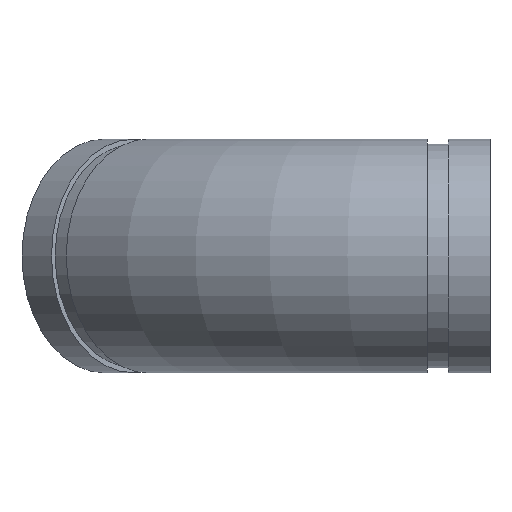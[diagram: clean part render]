
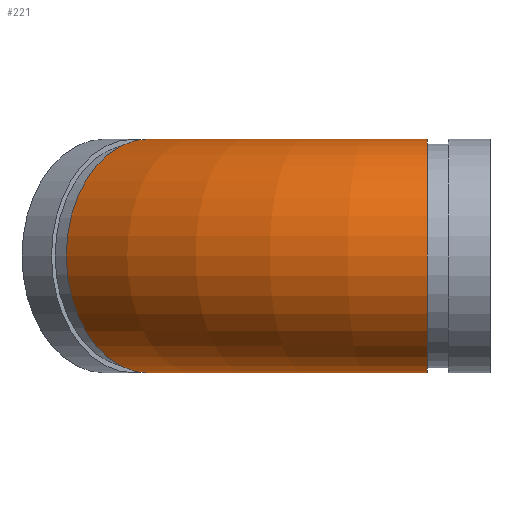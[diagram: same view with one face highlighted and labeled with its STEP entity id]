
A CAD part, left-side view. The second image highlights one B-rep face of the part: STEP entity #221.
In plain terms, the highlighted toroidal (fillet/blend) face has major radius 149.746 mm and minor radius 44.45 mm.
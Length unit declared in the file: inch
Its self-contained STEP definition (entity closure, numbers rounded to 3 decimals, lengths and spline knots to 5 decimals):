
#15=TOROIDAL_SURFACE('',#273,5.89551,1.75);
#50=FACE_OUTER_BOUND('',#68,.T.);
#68=EDGE_LOOP('',(#178,#179,#180,#181));
#74=CIRCLE('',#246,1.75);
#83=CIRCLE('',#259,1.75);
#92=CIRCLE('',#274,4.14551);
#94=VERTEX_POINT('',#357);
#103=VERTEX_POINT('',#380);
#112=EDGE_CURVE('',#94,#94,#74,.T.);
#122=EDGE_CURVE('',#103,#103,#83,.T.);
#135=EDGE_CURVE('',#94,#103,#92,.T.);
#178=ORIENTED_EDGE('',*,*,#112,.T.);
#179=ORIENTED_EDGE('',*,*,#135,.T.);
#180=ORIENTED_EDGE('',*,*,#122,.F.);
#181=ORIENTED_EDGE('',*,*,#135,.F.);
#221=ADVANCED_FACE('',(#50),#15,.T.);
#246=AXIS2_PLACEMENT_3D('',#358,#283,#284);
#259=AXIS2_PLACEMENT_3D('',#381,#310,#311);
#273=AXIS2_PLACEMENT_3D('',#406,#342,#343);
#274=AXIS2_PLACEMENT_3D('',#407,#344,#345);
#283=DIRECTION('center_axis',(0.,1.,0.));
#284=DIRECTION('ref_axis',(-1.,0.,0.));
#310=DIRECTION('center_axis',(0.707,0.707,0.));
#311=DIRECTION('ref_axis',(-0.707,0.707,0.));
#342=DIRECTION('center_axis',(0.,0.,1.));
#343=DIRECTION('ref_axis',(1.,0.,0.));
#344=DIRECTION('center_axis',(0.,0.,-1.));
#345=DIRECTION('ref_axis',(1.,0.,0.));
#357=CARTESIAN_POINT('',(1.75,0.938,0.));
#358=CARTESIAN_POINT('Origin',(0.,0.938,0.));
#380=CARTESIAN_POINT('',(2.96419,3.86932,0.));
#381=CARTESIAN_POINT('Origin',(1.72675,5.10675,0.));
#406=CARTESIAN_POINT('Origin',(5.89551,0.938,0.));
#407=CARTESIAN_POINT('Origin',(5.89551,0.938,0.));
